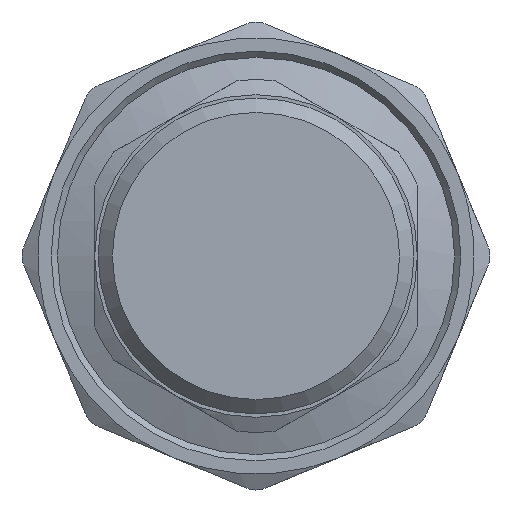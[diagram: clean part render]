
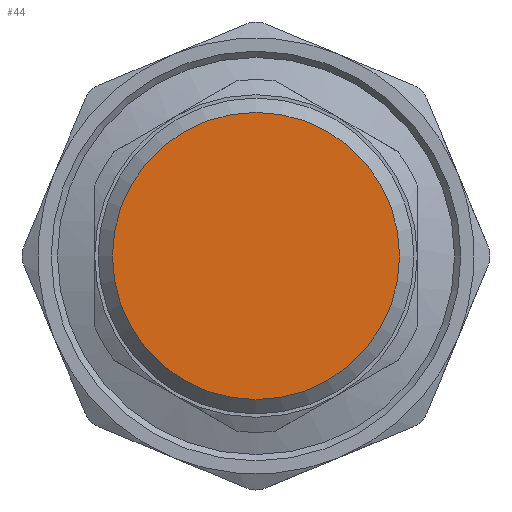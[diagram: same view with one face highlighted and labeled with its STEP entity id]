
A CAD part, front view. The second image highlights one B-rep face of the part: STEP entity #44.
In plain terms, the highlighted planar face has unit normal (0, -1, 0).
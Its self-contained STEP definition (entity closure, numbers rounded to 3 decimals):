
#44=ADVANCED_FACE('',(#102),#104,.F.);
#102=FACE_BOUND('',#103,.T.);
#103=EDGE_LOOP('',(#532));
#104=PLANE('',#105);
#105=AXIS2_PLACEMENT_3D('',#106,#107,#108);
#106=CARTESIAN_POINT('',(0.,0.,0.));
#107=DIRECTION('',(0.,1.,0.));
#108=DIRECTION('',(-1.,0.,0.));
#532=ORIENTED_EDGE('',*,*,#788,.F.);
#788=EDGE_CURVE('',#916,#916,#917,.T.);
#916=VERTEX_POINT('',#1128);
#917=CIRCLE('',#1129,12.021);
#1128=CARTESIAN_POINT('',(-12.021,0.,0.));
#1129=AXIS2_PLACEMENT_3D('',#1130,#1131,#1132);
#1130=CARTESIAN_POINT('',(0.,0.,0.));
#1131=DIRECTION('',(0.,1.,0.));
#1132=DIRECTION('',(-1.,0.,0.));
